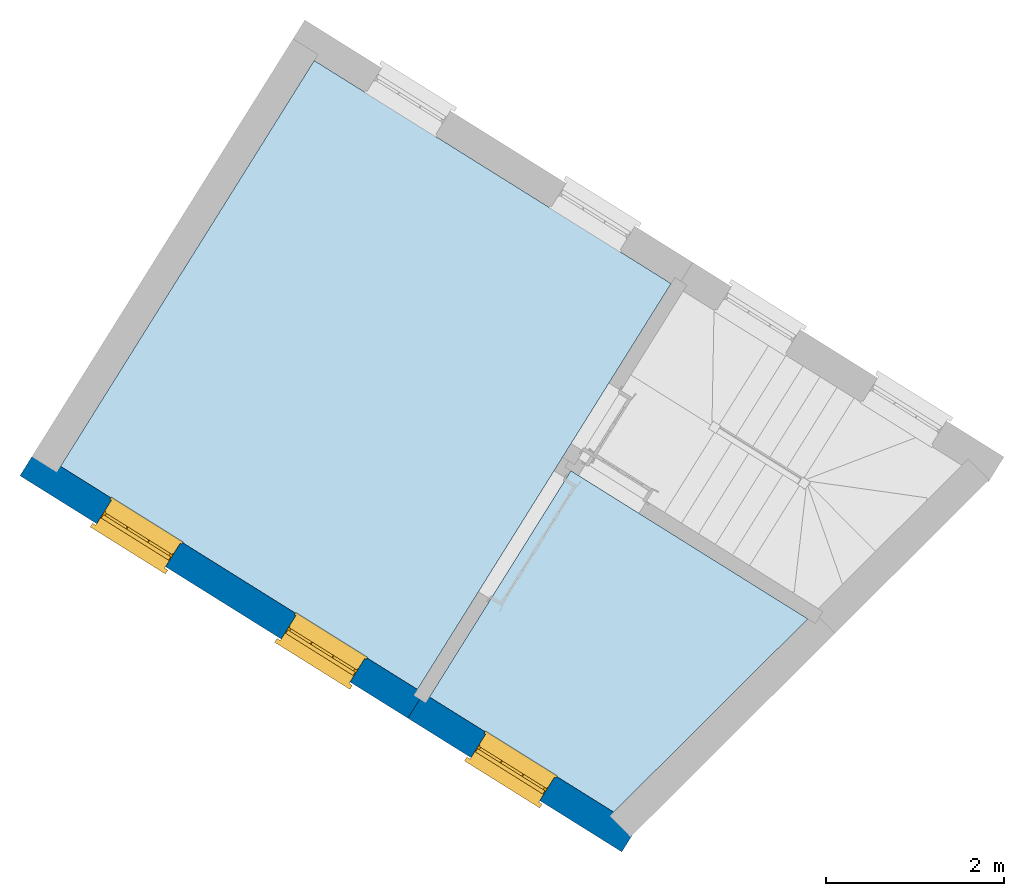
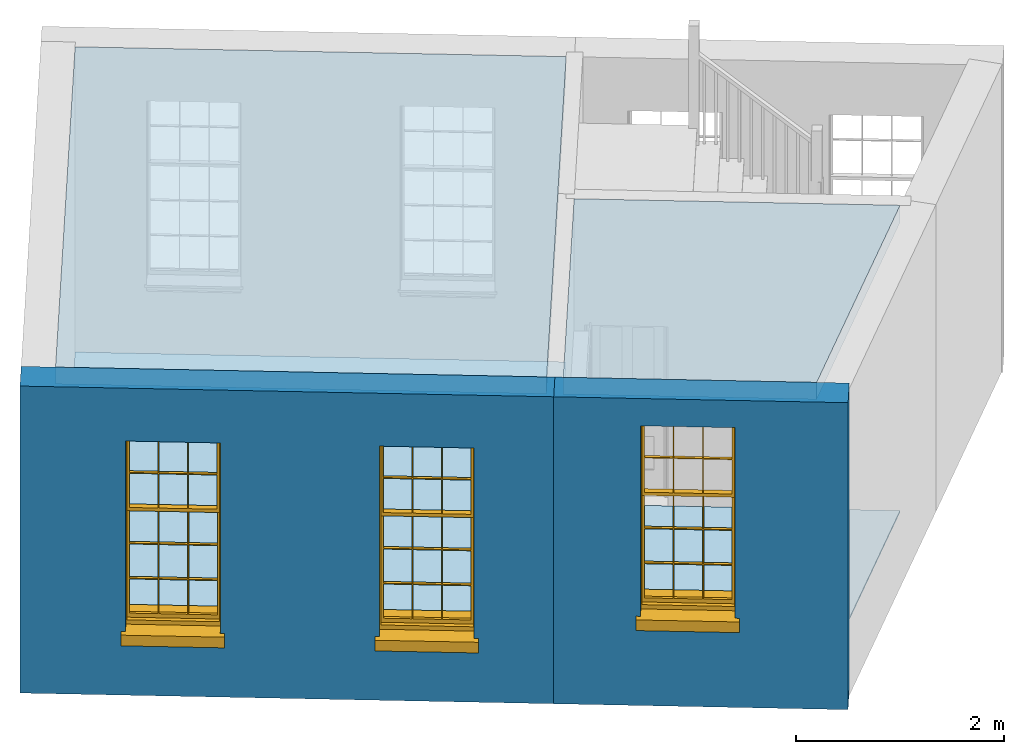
# One storey, part 1 of 3: 4 slabs, 3 windows, 2 walls, 3 openings.
"""IFC4 building model written with IfcOpenShell, lengths in metres."""

from ifc_helpers import new_model, si_unit, frame, origin, origin_with_axes, place, context, subcontext, project, spatial, polyline, outline, extrude, faceted_brep, source, transform, mapped, material, layer, layer_set, layer_usage, type_object, type_shapes, element, fill, save


model = new_model("IFC4")

# Units and contexts
model_context = context("Model", 3, world=origin_with_axes())
body_context = subcontext(model_context, "Body", "Model", "MODEL_VIEW")
ifc_project = project(units=[si_unit("PLANEANGLEUNIT", "RADIAN"), si_unit("MASSUNIT", "GRAM", prefix="KILO"), si_unit("FORCEUNIT", "NEWTON", prefix="KILO"), si_unit("LENGTHUNIT", "METRE"), si_unit("AREAUNIT", "SQUARE_METRE"), si_unit("VOLUMEUNIT", "CUBIC_METRE")], contexts=[model_context, model_context])

# Sites, building, storey
site_1_placement = place(None, origin_with_axes())
site_1 = spatial("IfcSite", under=ifc_project, at=site_1_placement, Name="Tamar")
site_2_placement = place(site_1_placement, origin_with_axes())
site_2 = spatial("IfcSite", under=site_1, at=site_2_placement, Name="Site plot-4", CompositionType="ELEMENT")
building_placement = place(None, origin_with_axes())
building = spatial("IfcBuilding", under=site_2, at=building_placement, Name="Building plot-4", CompositionType="ELEMENT")
storey_placement = place(None, frame((0.0, 0.0, 27.8), z_axis=(0.0, 0.0, 1.0), x_axis=(1.0, 0.0, 0.0)))
storey = spatial("IfcBuildingStorey", under=building, at=storey_placement, Name="plot-4 1", CompositionType="ELEMENT", Elevation=27.8)

# Slabs
slab_1_placement = place(storey_placement, frame((223.665023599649, 281.456256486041, 3.4)))
element("IfcSlab", 1, at=slab_1_placement, inside=storey, Name="My Slab", ObjectType="Slab", PredefinedType="FLOOR", context=body_context, shape_type="SweptSolid", body=[
    extrude(outline(polyline([(0.0, 0.0), (-1.58587509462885, -2.53721661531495), (0.480081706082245, -3.82853301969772), (2.65690931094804, -1.66068844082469), (0.0, 0.0)])), origin_with_axes(), (0.0, 0.0, 1.0), 0.2),
])
slab_2_placement = place(storey_placement, frame((223.665023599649, 281.456256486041, 0.0)))
element("IfcSlab", 2, at=slab_2_placement, inside=storey, Name="My Slab", ObjectType="Slab", PredefinedType="FLOOR", context=body_context, shape_type="SweptSolid", body=[
    extrude(outline(polyline([(0.0, 0.0), (-1.58587509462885, -2.53721661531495), (0.480081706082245, -3.82853301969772), (2.65690931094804, -1.66068844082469), (0.0, 0.0)])), origin_with_axes(), (0.0, 0.0, 1.0), 0.02),
])
slab_3_placement = place(storey_placement, frame((220.785743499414, 286.057758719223, 3.4)))
element("IfcSlab", 3, at=slab_3_placement, inside=storey, Name="My Slab", ObjectType="Slab", PredefinedType="FLOOR", context=body_context, shape_type="SweptSolid", body=[
    extrude(outline(polyline([(0.0, 0.0), (-2.84516084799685, -4.551928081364), (1.15772803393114, -7.05391460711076), (4.00288888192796, -2.50198652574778), (0.0, 0.0)])), origin_with_axes(), (0.0, 0.0, 1.0), 0.2),
])
slab_4_placement = place(storey_placement, frame((220.785743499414, 286.057758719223, 0.0)))
element("IfcSlab", 4, at=slab_4_placement, inside=storey, Name="My Slab", ObjectType="Slab", PredefinedType="FLOOR", context=body_context, shape_type="SweptSolid", body=[
    extrude(outline(polyline([(0.0, 0.0), (-2.84516084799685, -4.551928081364), (1.15772803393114, -7.05391460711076), (4.00288888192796, -2.50198652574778), (0.0, 0.0)])), origin_with_axes(), (0.0, 0.0, 1.0), 0.02),
])

# Wall, openings, windows
ifc_material = material(Name="Masonry")
ifc_layer = layer(ifc_material, 0.33, ventilated=False)
ifc_layer_set = layer_set([ifc_layer], Name="exterior_0.08_0.25")
ifc_layer_usage = layer_usage(ifc_layer_set, "AXIS2", "POSITIVE", -0.25)
wall_type = type_object("IfcWallType", Name="exterior_0.08_0.25", PredefinedType="SOLIDWALL", material=ifc_layer_set)
wall_1_placement = place(storey_placement, frame((217.830342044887, 281.480394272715, 0.0), z_axis=(0.0, 0.0, 1.0), x_axis=(0.847981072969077, -0.530026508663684, 0.0)))
wall_1 = element("IfcWall", 5, at=wall_1_placement, inside=storey, type_object=wall_type, material=ifc_layer_usage, Name="exterior", context=body_context, shape_type="SweptSolid", body=[
    extrude(outline(polyline([(-0.25000000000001, 0.0799999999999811), (-0.250000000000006, -0.250000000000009), (4.88049319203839, -0.250000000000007), (4.88049319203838, 0.0799999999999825), (-0.25000000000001, 0.0799999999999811)])), origin_with_axes(), (0.0, 0.0, 1.0), 3.6),
])
opening_1_placement = place(wall_1_placement, frame((0.765123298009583, 0.0, 0.75)))
opening_1 = element("IfcOpeningElement", 6, at=opening_1_placement, cuts=wall_1, Name="My Opening", ObjectType="Opening", context=body_context, shape_type="SweptSolid", body=[
    extrude(outline(polyline([(0.0, -0.269999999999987), (0.910000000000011, -0.269999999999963), (0.910000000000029, 1.10000000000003), (1.67643676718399e-14, 1.10000000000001), (0.0, -0.269999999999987)])), origin_with_axes(), (0.0, 0.0, 1.0), 2.23),
])
opening_2_placement = place(wall_1_placement, frame((3.20536989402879, 0.0, 0.75)))
opening_2 = element("IfcOpeningElement", 7, at=opening_2_placement, cuts=wall_1, Name="My Opening", ObjectType="Opening", context=body_context, shape_type="SweptSolid", body=[
    extrude(outline(polyline([(0.0, -0.270000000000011), (0.910000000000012, -0.269999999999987), (0.910000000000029, 1.10000000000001), (1.73194791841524e-14, 1.09999999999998), (0.0, -0.270000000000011)])), origin_with_axes(), (0.0, 0.0, 1.0), 2.23),
])
window_type = type_object("IfcWindowType", Name="sash_big_taller", PartitioningType="DOUBLE_PANEL_HORIZONTAL", PredefinedType="NOTDEFINED")
shared_shape = source(origin(), body_context, "Body", "Brep", [
    faceted_brep([(0.033125, 0.145, 1.385209), (0.01, 0.145, 1.385209), (0.033125, 0.145, 1.786042), (0.876875, 0.145, 1.385209), (0.876875, 0.145, 1.786042), (0.9, 0.145, 1.385209), (0.876875, 0.145, 1.796042), (0.876875, 0.145, 2.196875), (0.9, 0.145, 2.22), (0.033125, 0.145, 2.196875), (0.033125, 0.145, 1.796042), (0.01, 0.145, 2.22), (0.876875, 0.115, 1.786042), (0.876875, 0.115, 1.385209), (0.9, 0.115, 1.347084), (0.033125, 0.115, 2.196875), (0.01, 0.115, 2.22), (0.033125, 0.115, 1.796042), (0.01, 0.115, 1.347084), (0.033125, 0.115, 1.385209), (0.033125, 0.115, 1.786042), (0.876875, 0.115, 2.196875), (0.876875, 0.115, 1.796042), (0.9, 0.115, 2.22), (0.033125, 0.145, 1.347084), (0.01, 0.145, 1.347084), (0.033125, 0.145, 0.94625), (0.876875, 0.145, 1.347084), (0.876875, 0.145, 0.94625), (0.9, 0.145, 1.347084), (0.876875, 0.145, 0.52625), (0.876875, 0.145, 0.125417), (0.9, 0.145, 0.077167), (0.033125, 0.145, 0.125417), (0.033125, 0.145, 0.52625), (0.01, 0.145, 0.077167), (-0.0425, 0.0, 0.01), (-0.0425, -0.05, 0.001667), (0.0, 0.0, 0.01), (0.9525, 0.0, 0.01), (0.91, 0.0, 0.01), (0.9525, -0.05, 0.001667), (-0.02, 0.33, 0.077167), (0.0, 0.33, 0.077167), (-0.02, 0.36, 0.077167), (0.0, 0.19, 0.077167), (0.01, 0.19, 0.077167), (0.91, 0.19, 0.077167), (0.91, 0.33, 0.077167), (0.9, 0.19, 0.077167), (0.93, 0.33, 0.077167), (0.93, 0.36, 0.077167), (0.01, 0.175, 1.385209), (0.9, 0.175, 1.385209), (0.876875, 0.175, 0.125417), (0.876875, 0.175, 0.52625), (0.9, 0.175, 0.077167), (0.876875, 0.175, 0.94625), (0.876875, 0.175, 1.347084), (0.033125, 0.175, 0.125417), (0.01, 0.175, 0.077167), (0.033125, 0.175, 0.52625), (0.033125, 0.175, 1.347084), (0.033125, 0.175, 0.94625), (-0.02, 0.33, 0.052167), (-0.02, 0.36, 0.052167), (0.93, 0.36, 0.052167), (0.93, 0.33, 0.052167), (0.91, 0.33, 0.052167), (0.0, 0.33, 0.052167), (0.91, 0.1, 0.026667), (0.0, 0.1, 0.026667), (-0.0425, -0.05, -0.123333), (0.9525, -0.05, -0.123333), (-0.0425, 0.0, -0.123333), (0.9525, 0.0, -0.123333), (0.01, 0.19, 2.22), (0.9, 0.19, 2.22), (0.0, 0.19, 2.23), (0.91, 0.19, 2.23), (0.01, 0.1, 0.077167), (0.9, 0.1, 0.077167), (0.592292, 0.145, 0.125417), (0.592292, 0.175, 0.125417), (0.317708, 0.175, 0.125417), (0.317708, 0.145, 0.125417), (0.592292, 0.145, 0.53625), (0.317708, 0.145, 0.53625), (0.317708, 0.145, 0.52625), (0.592292, 0.145, 0.52625), (0.592292, 0.175, 0.53625), (0.317708, 0.175, 0.53625), (0.592292, 0.115, 1.796042), (0.592292, 0.145, 1.796042), (0.317708, 0.145, 1.796042), (0.317708, 0.115, 1.796042), (0.317708, 0.115, 1.786042), (0.592292, 0.115, 1.786042), (0.317708, 0.145, 1.786042), (0.592292, 0.145, 1.786042), (0.602292, 0.115, 1.786042), (0.592292, 0.115, 1.385209), (0.602292, 0.115, 1.385209), (0.602292, 0.145, 1.385209), (0.592292, 0.145, 1.385209), (0.602292, 0.145, 1.786042), (0.876875, 0.145, 0.53625), (0.876875, 0.175, 0.53625), (0.602292, 0.175, 0.53625), (0.602292, 0.145, 0.53625), (0.317708, 0.175, 0.52625), (0.307708, 0.175, 0.125417), (0.307708, 0.175, 0.52625), (0.602292, 0.175, 0.52625), (0.602292, 0.175, 0.125417), (0.592292, 0.175, 0.52625), (0.307708, 0.175, 0.53625), (0.033125, 0.175, 0.53625), (0.317708, 0.175, 1.347084), (0.317708, 0.175, 0.94625), (0.307708, 0.175, 0.94625), (0.307708, 0.175, 1.347084), (0.602292, 0.175, 1.347084), (0.602292, 0.175, 0.94625), (0.592292, 0.175, 0.94625), (0.592292, 0.175, 1.347084), (0.307708, 0.145, 0.52625), (0.307708, 0.145, 0.125417), (0.307708, 0.145, 0.53625), (0.033125, 0.145, 0.53625), (0.307708, 0.145, 1.347084), (0.307708, 0.145, 0.94625), (0.592292, 0.145, 1.347084), (0.592292, 0.145, 0.94625), (0.317708, 0.145, 0.94625), (0.317708, 0.145, 1.347084), (0.602292, 0.145, 0.94625), (0.602292, 0.145, 1.347084), (0.602292, 0.145, 0.52625), (0.602292, 0.145, 0.125417), (0.307708, 0.115, 1.796042), (0.307708, 0.115, 1.786042), (0.307708, 0.115, 1.385209), (0.317708, 0.115, 1.385209), (0.317708, 0.115, 2.196875), (0.307708, 0.115, 2.196875), (0.602292, 0.115, 2.196875), (0.592292, 0.115, 2.196875), (0.602292, 0.115, 1.796042), (0.602292, 0.145, 1.796042), (0.307708, 0.145, 1.796042), (0.307708, 0.145, 2.196875), (0.317708, 0.145, 2.196875), (0.592292, 0.145, 2.196875), (0.602292, 0.145, 2.196875), (0.307708, 0.145, 1.786042), (0.317708, 0.145, 1.385209), (0.307708, 0.145, 1.385209), (0.876875, 0.175, 0.93625), (0.033125, 0.175, 0.93625), (0.033125, 0.145, 0.93625), (0.876875, 0.145, 0.93625), (0.91, 0.1, 2.23), (0.9, 0.1, 2.22), (0.01, 0.1, 2.22), (0.0, 0.1, 2.23), (0.91, 0.0, 0.0), (0.0, 0.0, 0.0), (0.91, 0.33, 0.0), (0.0, 0.33, 0.0), (0.317708, 0.145, 0.93625), (0.592292, 0.145, 0.93625), (0.317708, 0.175, 0.93625), (0.307708, 0.175, 0.93625), (0.602292, 0.175, 0.93625), (0.592292, 0.175, 0.93625), (0.307708, 0.145, 0.93625), (0.602292, 0.145, 0.93625)], [[[0, 1, 2]], [[3, 4, 5]], [[6, 7, 8]], [[9, 10, 11]], [[12, 13, 14]], [[15, 16, 17]], [[18, 19, 20]], [[21, 22, 23]], [[24, 25, 26]], [[27, 28, 29]], [[30, 31, 32]], [[33, 34, 35]], [[14, 27, 29]], [[25, 24, 18]], [[36, 37, 38]], [[39, 40, 41]], [[42, 43, 44]], [[45, 46, 43]], [[47, 48, 49]], [[50, 51, 48]], [[1, 0, 52]], [[5, 53, 3]], [[54, 55, 56]], [[57, 58, 53]], [[59, 60, 61]], [[62, 63, 52]], [[48, 43, 46, 49]], [[51, 44, 43, 48]], [[64, 42, 44, 65]], [[65, 44, 51, 66]], [[66, 51, 50, 67]], [[65, 66, 68, 69]], [[60, 56, 49, 46]], [[70, 71, 38, 40]], [[37, 41, 40, 38]], [[37, 72, 73, 41]], [[74, 75, 73, 72]], [[8, 11, 76, 77]], [[76, 78, 79, 77]], [[32, 35, 80, 81]], [[81, 80, 71, 70]], [[82, 83, 84, 85]], [[86, 87, 88, 89]], [[86, 90, 91, 87]], [[92, 93, 94, 95]], [[92, 95, 96, 97]], [[96, 98, 99, 97]], [[100, 97, 101, 102]], [[103, 104, 99, 105]], [[97, 99, 104, 101]], [[102, 103, 105, 100]], [[106, 107, 108, 109]], [[110, 84, 111, 112]], [[113, 114, 83, 115]], [[116, 112, 61, 117]], [[90, 115, 110, 91]], [[118, 119, 120, 121]], [[122, 123, 124, 125]], [[113, 108, 107, 55]], [[126, 112, 111, 127]], [[34, 61, 112, 126]], [[89, 115, 83, 82]], [[88, 110, 115, 89]], [[85, 84, 110, 88]], [[128, 116, 117, 129]], [[130, 121, 120, 131]], [[132, 125, 124, 133]], [[134, 119, 118, 135]], [[136, 123, 122, 137]], [[138, 113, 55, 30]], [[139, 114, 113, 138]], [[138, 30, 106, 109]], [[88, 126, 127, 85]], [[138, 89, 82, 139]], [[137, 132, 133, 136]], [[128, 129, 34, 126]], [[135, 130, 131, 134]], [[140, 17, 20, 141]], [[96, 141, 142, 143]], [[144, 145, 140, 95]], [[146, 147, 92, 148]], [[100, 12, 22, 148]], [[149, 6, 4, 105]], [[94, 150, 151, 152]], [[149, 93, 153, 154]], [[99, 98, 94, 93]], [[155, 2, 10, 150]], [[156, 157, 155, 98]], [[141, 155, 157, 142]], [[20, 2, 155, 141]], [[143, 156, 98, 96]], [[140, 150, 10, 17]], [[145, 151, 150, 140]], [[147, 153, 93, 92]], [[95, 94, 152, 144]], [[22, 6, 149, 148]], [[148, 149, 154, 146]], [[100, 105, 4, 12]], [[109, 86, 89, 138]], [[108, 113, 115, 90]], [[91, 110, 112, 116]], [[87, 128, 126, 88]], [[97, 100, 148, 92]], [[141, 96, 95, 140]], [[98, 155, 150, 94]], [[105, 99, 93, 149]], [[143, 101, 104, 156]], [[135, 118, 125, 132]], [[144, 152, 153, 147]], [[127, 111, 59, 33]], [[15, 9, 151, 145]], [[146, 154, 7, 21]], [[31, 54, 114, 139]], [[36, 74, 72, 37]], [[39, 41, 73, 75]], [[18, 14, 101, 143]], [[23, 16, 144, 147]], [[83, 56, 60, 84]], [[52, 53, 125, 118]], [[53, 52, 156, 104]], [[11, 8, 153, 152]], [[14, 18, 135, 132]], [[2, 1, 11, 10]], [[8, 5, 4, 6]], [[57, 53, 56, 158]], [[60, 52, 63, 159]], [[26, 25, 35, 160]], [[32, 29, 28, 161]], [[14, 23, 22, 12]], [[18, 20, 17, 16]], [[19, 0, 2, 20]], [[17, 10, 9, 15]], [[12, 4, 3, 13]], [[21, 7, 6, 22]], [[27, 58, 57, 28]], [[30, 55, 54, 31]], [[33, 59, 61, 34]], [[26, 63, 62, 24]], [[5, 8, 77, 53]], [[76, 11, 1, 52]], [[46, 45, 78, 76]], [[49, 77, 79, 47]], [[70, 162, 163, 81]], [[71, 80, 164, 165]], [[19, 142, 157, 0]], [[102, 13, 3, 103]], [[121, 130, 24, 62]], [[29, 32, 81, 14]], [[80, 35, 25, 18]], [[60, 46, 76, 52]], [[77, 49, 56, 53]], [[23, 14, 81, 163]], [[16, 164, 80, 18]], [[35, 85, 127]], [[127, 33, 35]], [[139, 82, 32]], [[32, 31, 139]], [[32, 82, 85, 35]], [[102, 101, 14]], [[14, 13, 102]], [[18, 143, 142]], [[142, 19, 18]], [[146, 21, 23]], [[23, 147, 146]], [[16, 15, 145]], [[145, 144, 16]], [[11, 152, 151]], [[151, 9, 11]], [[154, 153, 8]], [[8, 7, 154]], [[23, 163, 164, 16]], [[162, 165, 164, 163]], [[52, 118, 121]], [[121, 62, 52]], [[125, 53, 122]], [[58, 122, 53]], [[27, 137, 122, 58]], [[56, 83, 114]], [[114, 54, 56]], [[111, 84, 60]], [[60, 59, 111]], [[137, 27, 14]], [[14, 132, 137]], [[130, 135, 18]], [[18, 24, 130]], [[157, 156, 52]], [[52, 0, 157]], [[103, 3, 53]], [[53, 104, 103]], [[79, 78, 165, 162]], [[78, 45, 71, 165]], [[162, 70, 47, 79]], [[166, 75, 74, 167]], [[68, 66, 67]], [[48, 68, 67, 50]], [[69, 64, 65]], [[42, 64, 69, 43]], [[69, 68, 168, 169]], [[70, 68, 48, 47]], [[166, 168, 68, 70]], [[43, 69, 71, 45]], [[69, 169, 167, 71]], [[168, 166, 167, 169]], [[38, 167, 74, 36]], [[71, 167, 38]], [[39, 75, 166, 40]], [[40, 166, 70]], [[133, 134, 170, 171]], [[133, 124, 119, 134]], [[28, 57, 123, 136]], [[172, 91, 116, 173]], [[174, 108, 90, 175]], [[120, 173, 159, 63]], [[124, 175, 172, 119]], [[174, 123, 57, 158]], [[176, 173, 116, 128]], [[160, 159, 173, 176]], [[171, 175, 90, 86]], [[170, 172, 175, 171]], [[87, 91, 172, 170]], [[131, 120, 63, 26]], [[177, 174, 158, 161]], [[109, 108, 174, 177]], [[177, 161, 28, 136]], [[170, 176, 128, 87]], [[177, 171, 86, 109]], [[131, 26, 160, 176]], [[136, 133, 171, 177]], [[123, 174, 175, 124]], [[119, 172, 173, 120]], [[134, 131, 176, 170]], [[129, 117, 159, 160]], [[161, 158, 107, 106]], [[35, 34, 129]], [[35, 129, 160]], [[32, 106, 30]], [[32, 161, 106]], [[56, 55, 107]], [[56, 107, 158]], [[60, 117, 61]], [[60, 159, 117]]]),
])
type_shapes(window_type, [shared_shape])
window_1_placement = place(storey_placement, frame((218.336044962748, 280.845903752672, 0.75), z_axis=(0.0, 0.0, 1.0), x_axis=(0.771662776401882, -0.482324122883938, 0.0)))
window_1 = element("IfcWindow", 8, at=window_1_placement, inside=storey, type_object=window_type, Name="living outside window", OverallHeight=2.23, OverallWidth=0.91, context=body_context, shape_type="MappedRepresentation", body=[
    mapped(shared_shape, transform((0.0, 0.0, 0.0), scale=1.0)),
])
fill(opening_1, window_1)
window_2_placement = place(storey_placement, frame((220.405327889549, 279.552508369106, 0.75), z_axis=(0.0, 0.0, 1.0), x_axis=(0.771662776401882, -0.482324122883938, 0.0)))
window_2 = element("IfcWindow", 9, at=window_2_placement, inside=storey, type_object=window_type, Name="living outside window", OverallHeight=2.23, OverallWidth=0.91, context=body_context, shape_type="MappedRepresentation", body=[
    mapped(shared_shape, transform((0.0, 0.0, 0.0), scale=1.0)),
])
fill(opening_2, window_2)

# Wall, opening, window
wall_2_placement = place(storey_placement, frame((221.96890789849, 278.893603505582, 0.0), z_axis=(0.0, 0.0, 1.0), x_axis=(0.847981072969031, -0.530026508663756, 0.0)))
wall_2 = element("IfcWall", 10, at=wall_2_placement, inside=storey, type_object=wall_type, material=ifc_layer_usage, Name="exterior", context=body_context, shape_type="SweptSolid", body=[
    extrude(outline(polyline([(-9.40979266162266e-15, 0.0799999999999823), (2.26026254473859e-14, -0.250000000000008), (2.82983238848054, -0.250000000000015), (2.82983238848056, 0.0800000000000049), (-9.40979266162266e-15, 0.0799999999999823)])), origin_with_axes(), (0.0, 0.0, 1.0), 3.6),
])
opening_3_placement = place(wall_2_placement, frame((0.834916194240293, 0.0, 1.05)))
opening_3 = element("IfcOpeningElement", 11, at=opening_3_placement, cuts=wall_2, Name="My Opening", ObjectType="Opening", context=body_context, shape_type="SweptSolid", body=[
    extrude(outline(polyline([(0.0, -0.270000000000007), (0.90999999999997, -0.269999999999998), (0.909999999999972, 1.09999999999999), (2.44249065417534e-15, 1.09999999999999), (0.0, -0.270000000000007)])), origin_with_axes(), (0.0, 0.0, 1.0), 2.23),
])
window_3_placement = place(storey_placement, frame((222.533793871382, 278.22212090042, 1.05), z_axis=(0.0, 0.0, 1.0), x_axis=(0.771662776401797, -0.482324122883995, 0.0)))
window_3 = element("IfcWindow", 12, at=window_3_placement, inside=storey, type_object=window_type, Name="kitchen outside window", OverallHeight=2.23, OverallWidth=0.91, context=body_context, shape_type="MappedRepresentation", body=[
    mapped(shared_shape, transform((0.0, 0.0, 0.0), scale=1.0)),
])
fill(opening_3, window_3)

save(model, "model.ifc")
